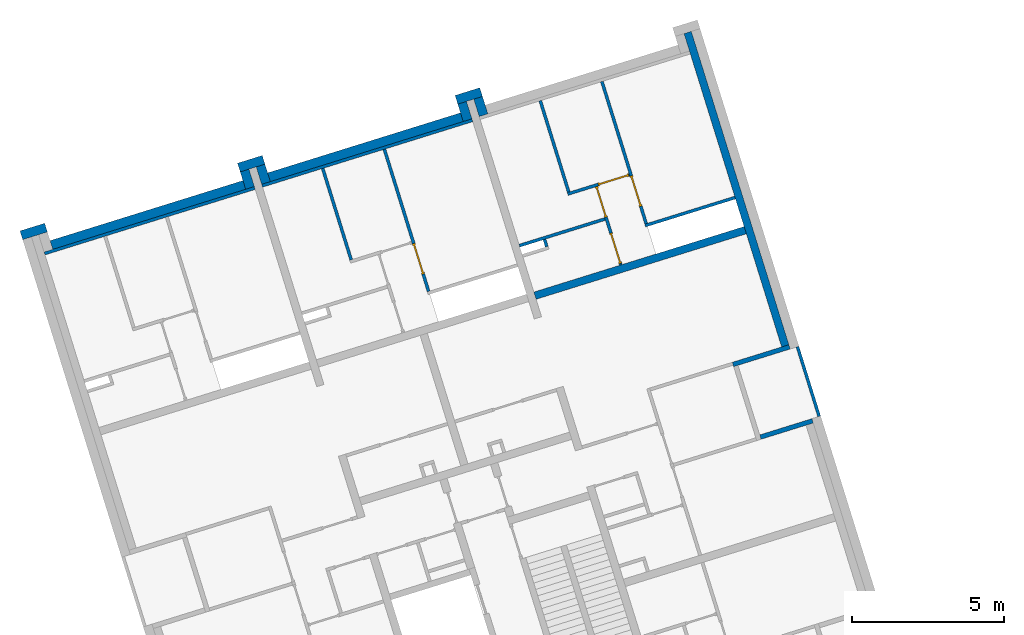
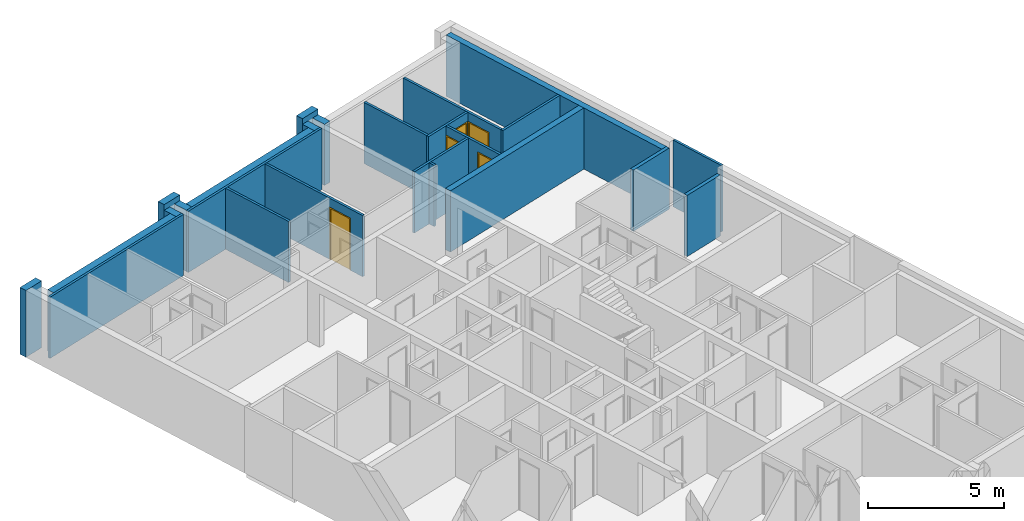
# One storey, part 9 of 12: 25 walls, 5 doors, 9 openings.
"""IFC4 building model written with IfcOpenShell, lengths in metres."""

from ifc_helpers import new_model, entity, si_unit, converted_unit, direction, frame, origin, place, context, subcontext, project, spatial, indexed_curve, outline, extrude, polygons, source, transform, mapped, material, constituent, constituent_set, type_object, element, fill, save


model = new_model("IFC4")

# Units and contexts
model_context = context("Model", 3, precision=1e-05, world=origin(), true_north=direction((6.12323399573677e-17, 1.0)))
body_context = subcontext(model_context, "Body", "Model", "MODEL_VIEW")
ifc_project = project(units=[si_unit("LENGTHUNIT", "METRE"), si_unit("AREAUNIT", "SQUARE_METRE"), si_unit("VOLUMEUNIT", "CUBIC_METRE"), converted_unit("PLANEANGLEUNIT", "DEGREE", entity("IfcPlaneAngleMeasure", 0.0174532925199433), si_unit("PLANEANGLEUNIT", "RADIAN"), dimensions=[0, 0, 0, 0, 0, 0, 0])], contexts=[model_context])

# Site, building, storey
site_placement = place(None, frame((13.1347999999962, 11.9886000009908, 0.0), z_axis=(0.0, 0.0, 1.0), x_axis=(0.954770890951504, 0.297342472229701, 0.0)))
site = spatial("IfcSite", under=ifc_project, at=site_placement, Name="Schiehaven", CompositionType="ELEMENT")
building_placement = place(site_placement, origin())
building = spatial("IfcBuilding", under=site, at=building_placement, Name="VORM huis", CompositionType="ELEMENT")
storey_placement = place(building_placement, frame((0.0, 0.0, 3.9)))
storey = spatial("IfcBuildingStorey", under=building, at=storey_placement, Name="01 eerste verdieping", CompositionType="ELEMENT", Elevation=3.9)

# Walls
ifc_material_1 = material(Name="beton_gewapend_ihw", Category="Miscellaneous")
wall_type_1 = type_object("IfcWallType", Name="Basic Wall:28_WA_skelet_wand 250mm_gen", PredefinedType="STANDARD")
wall_1_placement = place(storey_placement, frame((27.5000000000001, 22.9249999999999, 0.0), z_axis=(0.0, 0.0, 1.0), x_axis=(0.0, 1.0, 0.0)))
element("IfcWall", 1, at=wall_1_placement, inside=storey, type_object=wall_type_1, material=ifc_material_1, Name="Constructieve wand", ObjectType="Wand", PredefinedType="NOTDEFINED", context=body_context, shape_type="SweptSolid", body=[
    extrude(outline(indexed_curve([(10.8000000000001, 0.125000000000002), (1.00265474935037e-16, 0.125000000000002), (-1.00265474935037e-16, -0.125000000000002), (10.8000000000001, -0.125000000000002), (10.8000000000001, 0.125000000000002)], self_intersect=False)), origin(), (0.0, 0.0, 1.0), 2.75),
])
ifc_material_2 = material(Name="ntb_ntb_ntb", Category="Miscellaneous")
wall_type_2 = type_object("IfcWallType", Name="Basic Wall:21_WA_gevel_binnenspouwwand 100mm_gen", PredefinedType="STANDARD")
wall_2_placement = place(storey_placement, frame((5.12500000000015, 33.0750000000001, 0.0)))
element("IfcWall", 2, at=wall_2_placement, inside=storey, type_object=wall_type_2, material=ifc_material_2, Name="Binnenspouwblad", ObjectType="Wand", PredefinedType="NOTDEFINED", context=body_context, shape_type="SweptSolid", body=[
    extrude(outline(indexed_curve([(7.24999999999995, 0.0499999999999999), (-1.37255262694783e-16, 0.0500000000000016), (1.37255262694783e-16, -0.0500000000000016), (7.24999999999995, -0.0500000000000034), (7.24999999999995, 0.0499999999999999)], self_intersect=False)), origin(), (0.0, 0.0, 1.0), 2.75),
])
wall_3_placement = place(storey_placement, frame((19.8750000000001, 33.075, 0.0), z_axis=(0.0, 0.0, 1.0), x_axis=(-1.0, 0.0, 0.0)))
element("IfcWall", 3, at=wall_3_placement, inside=storey, type_object=wall_type_2, material=ifc_material_2, Name="Binnenspouwblad", ObjectType="Wand", PredefinedType="NOTDEFINED", context=body_context, shape_type="SweptSolid", body=[
    extrude(outline(indexed_curve([(7.24999999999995, 0.0500000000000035), (1.69379877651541e-17, 0.0500000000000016), (-1.69379877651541e-17, -0.0500000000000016), (7.24999999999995, -0.0499999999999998), (7.24999999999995, 0.0500000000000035)], self_intersect=False)), origin(), (0.0, 0.0, 1.0), 2.75),
])
wall_type_3 = type_object("IfcWallType", Name="Basic Wall: 300mm_gen", PredefinedType="STANDARD")
wall_4_placement = place(storey_placement, frame((5.42500000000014, 33.8750000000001, 0.0), z_axis=(0.0, 0.0, 1.0), x_axis=(-1.0, 0.0, 0.0)))
element("IfcWall", 4, at=wall_4_placement, inside=storey, type_object=wall_type_3, material=ifc_material_2, Name="Gevelwand", ObjectType="Wand", PredefinedType="NOTDEFINED", context=body_context, shape_type="SweptSolid", body=[
    extrude(outline(indexed_curve([(0.85000000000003, 0.150000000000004), (4.24655718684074e-16, 0.150000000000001), (-4.24655718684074e-16, -0.150000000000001), (0.850000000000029, -0.149999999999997), (0.85000000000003, 0.150000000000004)], self_intersect=False)), origin(), (0.0, 0.0, 1.0), 3.0),
])
wall_5_placement = place(storey_placement, frame((12.2250000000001, 33.725, 0.0), z_axis=(0.0, 0.0, 1.0), x_axis=(0.0, -1.0, 0.0)))
element("IfcWall", 5, at=wall_5_placement, inside=storey, type_object=wall_type_3, material=ifc_material_2, Name="Gevelwand", ObjectType="Wand", PredefinedType="NOTDEFINED", context=body_context, shape_type="SweptSolid", body=[
    extrude(outline(indexed_curve([(0.600000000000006, 0.150000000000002), (-9.66298299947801e-16, 0.150000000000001), (9.66298299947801e-16, -0.150000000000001), (0.600000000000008, -0.149999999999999), (0.600000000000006, 0.150000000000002)], self_intersect=False)), origin(), (0.0, 0.0, 1.0), 2.75),
])
wall_6_placement = place(storey_placement, frame((12.0750000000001, 33.275, 0.0), z_axis=(0.0, 0.0, 1.0), x_axis=(-1.0, 0.0, 0.0)))
element("IfcWall", 6, at=wall_6_placement, inside=storey, type_object=wall_type_3, material=ifc_material_2, Name="Gevelwand", ObjectType="Wand", PredefinedType="NOTDEFINED", context=body_context, shape_type="SweptSolid", body=[
    extrude(outline(indexed_curve([(6.64999999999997, 0.150000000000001), (-4.90186530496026e-16, 0.150000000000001), (4.90186530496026e-16, -0.150000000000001), (6.64999999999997, -0.15), (6.64999999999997, 0.150000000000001)], self_intersect=False)), origin(), (0.0, 0.0, 1.0), 2.75),
])
wall_7_placement = place(storey_placement, frame((12.9250000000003, 33.875, 0.0), z_axis=(0.0, 0.0, 1.0), x_axis=(-1.0, 0.0, 0.0)))
element("IfcWall", 7, at=wall_7_placement, inside=storey, type_object=wall_type_3, material=ifc_material_2, Name="Gevelwand", ObjectType="Wand", PredefinedType="NOTDEFINED", context=body_context, shape_type="SweptSolid", body=[
    extrude(outline(indexed_curve([(0.850000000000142, 0.150000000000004), (-6.58211410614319e-16, 0.150000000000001), (6.58211410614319e-16, -0.150000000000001), (0.850000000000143, -0.149999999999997), (0.850000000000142, 0.150000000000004)], self_intersect=False)), origin(), (0.0, 0.0, 1.0), 3.0),
])
wall_8_placement = place(storey_placement, frame((12.7750000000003, 33.125, 0.0), z_axis=(0.0, 0.0, 1.0), x_axis=(0.0, 1.0, 0.0)))
element("IfcWall", 8, at=wall_8_placement, inside=storey, type_object=wall_type_3, material=ifc_material_2, Name="Gevelwand", ObjectType="Wand", PredefinedType="NOTDEFINED", context=body_context, shape_type="SweptSolid", body=[
    extrude(outline(indexed_curve([(0.600000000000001, 0.150000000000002), (-9.66298299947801e-16, 0.150000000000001), (9.66298299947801e-16, -0.150000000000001), (0.600000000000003, -0.149999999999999), (0.600000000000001, 0.150000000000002)], self_intersect=False)), origin(), (0.0, 0.0, 1.0), 2.75),
])
wall_9_placement = place(storey_placement, frame((19.7250000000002, 33.725, 0.0), z_axis=(0.0, 0.0, 1.0), x_axis=(0.0, -1.0, 0.0)))
element("IfcWall", 9, at=wall_9_placement, inside=storey, type_object=wall_type_3, material=ifc_material_2, Name="Gevelwand", ObjectType="Wand", PredefinedType="NOTDEFINED", context=body_context, shape_type="SweptSolid", body=[
    extrude(outline(indexed_curve([(0.600000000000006, 0.15), (-9.66298299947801e-16, 0.150000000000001), (9.66298299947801e-16, -0.150000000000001), (0.600000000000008, -0.150000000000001), (0.600000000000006, 0.15)], self_intersect=False)), origin(), (0.0, 0.0, 1.0), 2.75),
])
wall_10_placement = place(storey_placement, frame((19.5750000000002, 33.275, 0.0), z_axis=(0.0, 0.0, 1.0), x_axis=(-1.0, 0.0, 0.0)))
element("IfcWall", 10, at=wall_10_placement, inside=storey, type_object=wall_type_3, material=ifc_material_2, Name="Gevelwand", ObjectType="Wand", PredefinedType="NOTDEFINED", context=body_context, shape_type="SweptSolid", body=[
    extrude(outline(indexed_curve([(6.64999999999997, 0.150000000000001), (-4.90186530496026e-16, 0.150000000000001), (4.90186530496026e-16, -0.150000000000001), (6.64999999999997, -0.15), (6.64999999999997, 0.150000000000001)], self_intersect=False)), origin(), (0.0, 0.0, 1.0), 2.75),
])
wall_11_placement = place(storey_placement, frame((20.4250000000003, 33.875, 0.0), z_axis=(0.0, 0.0, 1.0), x_axis=(-1.0, 0.0, 0.0)))
element("IfcWall", 11, at=wall_11_placement, inside=storey, type_object=wall_type_3, material=ifc_material_2, Name="Gevelwand", ObjectType="Wand", PredefinedType="NOTDEFINED", context=body_context, shape_type="SweptSolid", body=[
    extrude(outline(indexed_curve([(0.850000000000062, 0.150000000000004), (-6.58211410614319e-16, 0.150000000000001), (6.58211410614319e-16, -0.150000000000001), (0.850000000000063, -0.149999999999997), (0.850000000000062, 0.150000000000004)], self_intersect=False)), origin(), (0.0, 0.0, 1.0), 3.0),
])
wall_12_placement = place(storey_placement, frame((20.2750000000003, 33.125, 0.0), z_axis=(0.0, 0.0, 1.0), x_axis=(0.0, 1.0, 0.0)))
element("IfcWall", 12, at=wall_12_placement, inside=storey, type_object=wall_type_3, material=ifc_material_2, Name="Gevelwand", ObjectType="Wand", PredefinedType="NOTDEFINED", context=body_context, shape_type="SweptSolid", body=[
    extrude(outline(indexed_curve([(0.60000000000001, 0.15), (-9.66298299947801e-16, 0.150000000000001), (9.66298299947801e-16, -0.150000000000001), (0.600000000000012, -0.150000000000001), (0.60000000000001, 0.15)], self_intersect=False)), origin(), (0.0, 0.0, 1.0), 2.75),
])
wall_type_4 = type_object("IfcWallType", Name="Basic Wall:22_WA_afbouw_binnenwand 250mm_gen", PredefinedType="STANDARD")
wall_13_placement = place(storey_placement, frame((20.1250000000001, 26.9499999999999, 0.0)))
element("IfcWall", 13, at=wall_13_placement, inside=storey, type_object=wall_type_4, material=ifc_material_2, Name="Binnenwand", ObjectType="Wand", PredefinedType="NOTDEFINED", context=body_context, shape_type="SweptSolid", body=[
    extrude(outline(indexed_curve([(7.24999999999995, 0.124999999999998), (-6.13193370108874e-16, 0.125000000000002), (6.13193370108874e-16, -0.125000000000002), (7.24999999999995, -0.125000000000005), (7.24999999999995, 0.124999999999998)], self_intersect=False)), origin(), (0.0, 0.0, 1.0), 2.75),
])

# Wall, openings, door
wall_type_5 = type_object("IfcWallType", Name="Basic Wall:22_WA_afbouw_binnenwand 100mm_gen", PredefinedType="STANDARD")
wall_14_placement = place(storey_placement, frame((16.8250000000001, 33.025, 0.0), z_axis=(0.0, 0.0, 1.0), x_axis=(0.0, -1.0, 0.0)))
wall_14 = element("IfcWall", 14, at=wall_14_placement, inside=storey, type_object=wall_type_5, material=ifc_material_2, Name="Binnenwand", ObjectType="Wand", PredefinedType="NOTDEFINED", context=body_context, shape_type="Tessellation", body=[
    polygons([(4.90000000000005, -0.0500000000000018, 2.75), (3.25000000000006, -0.0500000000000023, 2.75), (3.15000000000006, -0.0500000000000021, 2.75), (0.0, -0.0500000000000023, 2.75), (0.0, -0.0500000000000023, 0.0), (3.15000000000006, -0.0500000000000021, 5.41433564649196e-16), (3.25000000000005, -0.0500000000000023, 0.0), (3.25000000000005, -0.0500000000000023, 2.34999999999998), (4.30000000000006, -0.0500000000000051, 2.34999999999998), (4.30000000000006, -0.0500000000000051, 0.0), (4.90000000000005, -0.0500000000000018, 0.0), (0.0, 0.0499999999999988, 2.75), (4.90000000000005, 0.0499999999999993, 2.75), (4.90000000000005, 0.0499999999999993, 0.0), (4.30000000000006, 0.0499999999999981, 0.0), (4.30000000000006, 0.0499999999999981, 2.34999999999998), (3.25000000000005, 0.0499999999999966, 2.34999999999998), (3.25000000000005, 0.0499999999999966, 0.0), (0.0, 0.0499999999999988, 0.0)], [[[1, 2, 3, 4, 5, 6, 7, 8, 9, 10, 11]], [[12, 13, 14, 15, 16, 17, 18, 19]], [[5, 19, 18, 7, 6]], [[4, 3, 2, 1, 13, 12]], [[5, 4, 12, 19]], [[1, 11, 14, 13]], [[9, 16, 15, 10]], [[17, 8, 7, 18]], [[16, 9, 8, 17]], [[14, 11, 10, 15]]], closed=True),
])
opening_1_placement = place(wall_14_placement, frame((4.30000000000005, 0.0500000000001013, 0.0)))
opening_1 = element("IfcOpeningElement", 15, at=opening_1_placement, cuts=wall_14, Name="Binnendeur", PredefinedType="OPENING", context=body_context, shape_type="SweptSolid", body=[
    extrude(outline(indexed_curve([(2.34999999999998, 0.0), (2.34999999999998, 1.05), (0.0, 1.05), (0.0, 0.0), (2.34999999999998, 0.0)], self_intersect=False)), frame((0.0, 0.0, 0.0), z_axis=(0.0, -1.0, 0.0), x_axis=(0.0, 0.0, 1.0)), (0.0, 0.0, 1.0), 0.1),
])
opening_2_placement = place(wall_14_placement, frame((33.025, -16.8250000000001, 0.0), z_axis=(0.0, 0.0, 1.0), x_axis=(0.0, 1.0, 0.0)))
element("IfcOpeningElement", 16, at=opening_2_placement, cuts=wall_14, Name="Binnendeur", PredefinedType="OPENING", context=body_context, shape_type="SweptSolid", body=[
    extrude(outline(indexed_curve([(-1.17499999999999, -0.524999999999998), (1.17499999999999, -0.525000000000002), (1.17499999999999, 0.525000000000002), (-1.17499999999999, 0.525000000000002), (-1.17499999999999, -0.524999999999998)], self_intersect=False)), frame((15.3510000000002, 29.2499999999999, 1.17499999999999), z_axis=(1.0, 0.0, 0.0), x_axis=(0.0, 0.0, -1.0)), (0.0, 0.0, 1.0), 3.048),
])
ifc_material_3 = material(Name="PD_a_binnenwandopeningen", Category="Miscellaneous")
ifc_constituent_1 = constituent(ifc_material_3, Name="PD_a_binnenwandopeningen", Category="Miscellaneous")
ifc_material_4 = material(Name="metaal_aluminium_ntb", Category="Miscellaneous")
ifc_constituent_2 = constituent(ifc_material_4, Name="metaal_aluminium_ntb", Category="Miscellaneous")
ifc_constituent_set_1 = constituent_set(constituents=[ifc_constituent_1, ifc_constituent_2])
door_type = type_object("IfcDoorType", Name="32_DO_binnendeur enkel:binnendeur", OperationType="REVOLVING", PredefinedType="DOOR")
shared_shape = source(origin(), body_context, "Body", "SweptSolid", [
    extrude(outline(indexed_curve([(0.475, -1.16249999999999), (0.525, -1.16249999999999), (0.525, 1.18749999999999), (-0.525, 1.18749999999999), (-0.525, -1.16249999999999), (-0.475, -1.16249999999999), (-0.475, 1.13749999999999), (0.475, 1.13749999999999), (0.475, -1.16249999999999)], self_intersect=False)), frame((0.525000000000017, 0.100000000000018, 1.16249999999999), z_axis=(0.0, -1.0, 0.0), x_axis=(1.0, 0.0, 0.0)), (0.0, 0.0, 1.0), 0.1),
    extrude(outline(indexed_curve([(-0.475, -0.025), (0.475, -0.025), (0.475, 0.025), (-0.475, 0.025), (-0.475, -0.025)], self_intersect=False)), frame((0.525000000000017, 0.0499999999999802, 0.0)), (0.0, 0.0, 1.0), 2.29999999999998),
])
door_1_placement = place(opening_1_placement, frame((0.0, 0.0, 0.0), z_axis=(0.0, 0.0, 1.0), x_axis=(-1.0, 0.0, 0.0)))
door_1 = element("IfcDoor", 17, at=door_1_placement, inside=storey, type_object=door_type, material=ifc_constituent_set_1, Name="Binnendeur", ObjectType="Deur", OperationType="REVOLVING", OverallHeight=2.34999999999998, OverallWidth=1.05, PredefinedType="DOOR", context=body_context, shape_type="MappedRepresentation", body=[
    mapped(shared_shape, transform((0.0, 0.0, 0.0), scale=1.0)),
])
fill(opening_1, door_1)

# Wall
wall_15_placement = place(storey_placement, frame((14.7000000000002, 33.025, 0.0), z_axis=(0.0, 0.0, 1.0), x_axis=(0.0, -1.0, 0.0)))
element("IfcWall", 18, at=wall_15_placement, inside=storey, type_object=wall_type_5, material=ifc_material_2, Name="Binnenwand", ObjectType="Wand", PredefinedType="NOTDEFINED", context=body_context, shape_type="SweptSolid", body=[
    extrude(outline(indexed_curve([(3.15000000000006, 0.0499999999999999), (1.16254574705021e-15, 0.0499999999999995), (-1.16254574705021e-15, -0.0499999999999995), (3.15000000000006, -0.0499999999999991), (3.15000000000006, 0.0499999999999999)], self_intersect=False)), origin(), (0.0, 0.0, 1.0), 2.75),
])

# Wall, openings, door
wall_16_placement = place(storey_placement, frame((24.2750000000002, 29.8250000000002, 0.0), z_axis=(0.0, 0.0, 1.0), x_axis=(-1.0, 0.0, 0.0)))
wall_16 = element("IfcWall", 19, at=wall_16_placement, inside=storey, type_object=wall_type_5, material=ifc_material_2, Name="Binnenwand", ObjectType="Wand", PredefinedType="NOTDEFINED", context=body_context, shape_type="Tessellation", body=[
    polygons([(2.12499999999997, -0.0499999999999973, 2.75), (2.02499999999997, -0.0500000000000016, 2.75), (1.97067743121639e-15, -0.0499999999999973, 2.75), (1.97067743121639e-15, -0.0499999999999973, 0.0), (0.0250000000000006, -0.0500000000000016, 0.0), (0.0250000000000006, -0.0500000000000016, 2.34999999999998), (1.075, -0.0500000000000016, 2.34999999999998), (1.075, -0.0500000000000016, 0.0), (2.02499999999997, -0.0500000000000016, 5.41433564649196e-16), (2.12499999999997, -0.0499999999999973, 0.0), (-1.20098390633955e-16, 0.0500000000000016, 2.75), (1.09999999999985, 0.0499999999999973, 2.75), (1.19999999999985, 0.0499999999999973, 2.75), (2.12499999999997, 0.0500000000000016, 2.75), (2.12499999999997, 0.0500000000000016, 0.0), (1.075, 0.0500000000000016, 0.0), (1.075, 0.0500000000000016, 2.34999999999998), (0.0249999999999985, 0.0499999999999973, 2.34999999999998), (0.0249999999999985, 0.0499999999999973, 0.0), (-1.20098390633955e-16, 0.0500000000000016, 0.0), (-1.20098390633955e-16, 0.0500000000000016, 2.34999999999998)], [[[1, 2, 3, 4, 5, 6, 7, 8, 9, 10]], [[11, 12, 13, 14, 15, 16, 17, 18, 19, 20, 21]], [[4, 20, 19, 5]], [[3, 2, 1, 14, 13, 12, 11]], [[4, 3, 11, 21, 20]], [[18, 6, 5, 19]], [[7, 17, 16, 8]], [[6, 18, 17, 7]], [[1, 10, 15, 14]], [[15, 10, 9, 8, 16]]], closed=True),
])
opening_3_placement = place(wall_16_placement, origin())
element("IfcOpeningElement", 20, at=opening_3_placement, cuts=wall_16, Name="Binnendeur", PredefinedType="OPENING", context=body_context, shape_type="SweptSolid", body=[
    extrude(outline(indexed_curve([(-0.0500000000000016, -1.17499999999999), (0.0499999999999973, -1.17499999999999), (0.0499999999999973, 1.17499999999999), (-0.0500000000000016, 1.17499999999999), (-0.0500000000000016, -1.17499999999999)], self_intersect=False)), frame((1.14999999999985, 0.0499999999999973, 1.17499999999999), z_axis=(0.0, 1.0, 0.0), x_axis=(-1.0, 0.0, 0.0)), (0.0, 0.0, 1.0), 1.05),
])
opening_4_placement = place(wall_16_placement, frame((0.0249999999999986, -0.050000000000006, 0.0)))
opening_4 = element("IfcOpeningElement", 21, at=opening_4_placement, cuts=wall_16, Name="Binnendeur", PredefinedType="OPENING", context=body_context, shape_type="SweptSolid", body=[
    extrude(outline(indexed_curve([(2.34999999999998, 0.0), (2.34999999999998, 1.05), (0.0, 1.05), (0.0, 0.0), (2.34999999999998, 0.0)], self_intersect=False)), frame((0.0, 0.0, 0.0), z_axis=(0.0, 1.0, 0.0), x_axis=(0.0, 0.0, 1.0)), (0.0, 0.0, 1.0), 0.1),
])
ifc_constituent_3 = constituent(ifc_material_3, Name="PD_a_binnenwandopeningen", Category="Miscellaneous")
ifc_constituent_4 = constituent(ifc_material_4, Name="metaal_aluminium_ntb", Category="Miscellaneous")
ifc_constituent_set_2 = constituent_set(constituents=[ifc_constituent_3, ifc_constituent_4])
door_2_placement = place(opening_4_placement, origin())
door_2 = element("IfcDoor", 22, at=door_2_placement, inside=storey, type_object=door_type, material=ifc_constituent_set_2, Name="Binnendeur", ObjectType="Deur", OperationType="REVOLVING", OverallHeight=2.34999999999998, OverallWidth=1.05, PredefinedType="DOOR", context=body_context, shape_type="MappedRepresentation", body=[
    mapped(shared_shape, transform((0.0, 0.0, 0.0), scale=1.0)),
])
fill(opening_4, door_2)

# Wall
wall_17_placement = place(storey_placement, frame((24.2750000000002, 28.0750000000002, 0.0)))
element("IfcWall", 23, at=wall_17_placement, inside=storey, type_object=wall_type_5, material=ifc_material_2, Name="Binnenwand", ObjectType="Wand", PredefinedType="NOTDEFINED", context=body_context, shape_type="SweptSolid", body=[
    extrude(outline(indexed_curve([(3.1000000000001, 0.0500000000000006), (1.27359924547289e-15, 0.0500000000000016), (-1.27359924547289e-15, -0.0500000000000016), (3.1000000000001, -0.0500000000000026), (3.1000000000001, 0.0500000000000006)], self_intersect=False)), origin(), (0.0, 0.0, 1.0), 2.75),
])

# Wall, openings, door
wall_18_placement = place(storey_placement, frame((24.3250000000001, 33.0250000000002, 0.0), z_axis=(0.0, 0.0, 1.0), x_axis=(0.0, -1.0, 0.0)))
wall_18 = element("IfcWall", 24, at=wall_18_placement, inside=storey, type_object=wall_type_5, material=ifc_material_2, Name="Binnenwand", ObjectType="Wand", PredefinedType="NOTDEFINED", context=body_context, shape_type="Tessellation", body=[
    polygons([(4.90000000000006, -0.0499999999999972, 2.75), (3.25000000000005, -0.0499999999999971, 2.75), (3.15000000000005, -0.049999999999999, 2.75), (0.0, -0.049999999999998, 2.75), (0.0, -0.049999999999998, 0.0), (3.15000000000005, -0.049999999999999, 5.41433564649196e-16), (3.25000000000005, -0.0499999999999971, 0.0), (3.25000000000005, -0.0499999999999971, 2.34999999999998), (4.30000000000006, -0.0500000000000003, 2.34999999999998), (4.30000000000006, -0.0500000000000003, 0.0), (4.90000000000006, -0.0499999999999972, 0.0), (0.0, 0.050000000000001, 2.75), (4.90000000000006, 0.0500000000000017, 2.75), (4.90000000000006, 0.0500000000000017, 0.0), (4.30000000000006, 0.0499999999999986, 0.0), (4.30000000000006, 0.0499999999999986, 2.34999999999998), (3.25000000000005, 0.0500000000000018, 2.34999999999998), (3.25000000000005, 0.0500000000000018, 0.0), (0.0, 0.050000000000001, 0.0)], [[[1, 2, 3, 4, 5, 6, 7, 8, 9, 10, 11]], [[12, 13, 14, 15, 16, 17, 18, 19]], [[5, 19, 18, 7, 6]], [[4, 3, 2, 1, 13, 12]], [[5, 4, 12, 19]], [[1, 11, 14, 13]], [[9, 16, 15, 10]], [[17, 8, 7, 18]], [[16, 9, 8, 17]], [[14, 11, 10, 15]]], closed=True),
])
opening_5_placement = place(wall_18_placement, frame((4.30000000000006, 0.0500000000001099, 0.0)))
opening_5 = element("IfcOpeningElement", 25, at=opening_5_placement, cuts=wall_18, Name="Binnendeur", PredefinedType="OPENING", context=body_context, shape_type="SweptSolid", body=[
    extrude(outline(indexed_curve([(2.34999999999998, 0.0), (2.34999999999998, 1.05), (0.0, 1.05), (0.0, 0.0), (2.34999999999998, 0.0)], self_intersect=False)), frame((0.0, 0.0, 0.0), z_axis=(0.0, -1.0, 0.0), x_axis=(0.0, 0.0, 1.0)), (0.0, 0.0, 1.0), 0.1),
])
opening_6_placement = place(wall_18_placement, frame((33.0250000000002, -24.3250000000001, 0.0), z_axis=(0.0, 0.0, 1.0), x_axis=(0.0, 1.0, 0.0)))
element("IfcOpeningElement", 26, at=opening_6_placement, cuts=wall_18, Name="Binnendeur", PredefinedType="OPENING", context=body_context, shape_type="SweptSolid", body=[
    extrude(outline(indexed_curve([(-1.17499999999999, -0.524999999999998), (1.17499999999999, -0.525000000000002), (1.17499999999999, 0.525000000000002), (-1.17499999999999, 0.525000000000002), (-1.17499999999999, -0.524999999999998)], self_intersect=False)), frame((22.8510000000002, 29.2500000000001, 1.17499999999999), z_axis=(1.0, 0.0, 0.0), x_axis=(0.0, 0.0, -1.0)), (0.0, 0.0, 1.0), 3.048),
])
ifc_constituent_5 = constituent(ifc_material_3, Name="PD_a_binnenwandopeningen", Category="Miscellaneous")
ifc_constituent_6 = constituent(ifc_material_4, Name="metaal_aluminium_ntb", Category="Miscellaneous")
ifc_constituent_set_3 = constituent_set(constituents=[ifc_constituent_5, ifc_constituent_6])
door_3_placement = place(opening_5_placement, frame((0.0, 0.0, 0.0), z_axis=(0.0, 0.0, 1.0), x_axis=(-1.0, 0.0, 0.0)))
door_3 = element("IfcDoor", 27, at=door_3_placement, inside=storey, type_object=door_type, material=ifc_constituent_set_3, Name="Binnendeur", ObjectType="Deur", OperationType="REVOLVING", OverallHeight=2.34999999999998, OverallWidth=1.05, PredefinedType="DOOR", context=body_context, shape_type="MappedRepresentation", body=[
    mapped(shared_shape, transform((0.0, 0.0, 0.0), scale=1.0)),
])
fill(opening_5, door_3)

# Wall
wall_19_placement = place(storey_placement, frame((22.2000000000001, 33.0250000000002, 0.0), z_axis=(0.0, 0.0, 1.0), x_axis=(0.0, -1.0, 0.0)))
element("IfcWall", 28, at=wall_19_placement, inside=storey, type_object=wall_type_5, material=ifc_material_2, Name="Binnenwand", ObjectType="Wand", PredefinedType="NOTDEFINED", context=body_context, shape_type="SweptSolid", body=[
    extrude(outline(indexed_curve([(3.15000000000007, 0.0500000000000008), (1.18222446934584e-15, 0.0500000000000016), (-1.18222446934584e-15, -0.0500000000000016), (3.15000000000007, -0.0500000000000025), (3.15000000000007, 0.0500000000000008)], self_intersect=False)), origin(), (0.0, 0.0, 1.0), 2.75),
])

# Wall, openings, doors
wall_20_placement = place(storey_placement, frame((23.1250000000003, 29.7750000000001, 0.0), z_axis=(0.0, 0.0, 1.0), x_axis=(0.0, -1.0, 0.0)))
wall_20 = element("IfcWall", 29, at=wall_20_placement, inside=storey, type_object=wall_type_5, material=ifc_material_2, Name="Binnenwand", ObjectType="Wand", PredefinedType="NOTDEFINED", context=body_context, shape_type="Tessellation", body=[
    polygons([(2.7000000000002, -0.0500000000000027, 2.75), (1.15000000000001, -0.0500000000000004, 2.75), (1.05000000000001, -0.0500000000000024, 2.75), (4.33146851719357e-15, -0.049999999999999, 2.75), (4.33146851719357e-15, -0.049999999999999, 2.34999999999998), (1.05000000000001, -0.0500000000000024, 2.34999999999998), (1.05000000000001, -0.0500000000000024, 0.0), (1.15000000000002, -0.0500000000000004, 5.41433564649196e-16), (1.59999999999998, -0.0499999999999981, 0.0), (1.59999999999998, -0.0499999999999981, 2.34999999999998), (2.64999999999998, -0.0500000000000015, 2.34999999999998), (2.64999999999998, -0.0500000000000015, 0.0), (2.7000000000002, -0.0500000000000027, 0.0), (4.33146851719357e-15, 0.0499999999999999, 2.75), (2.7000000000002, 0.0500000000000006, 2.75), (2.7000000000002, 0.0500000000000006, 0.0), (2.64999999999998, 0.0499999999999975, 0.0), (2.64999999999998, 0.0499999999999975, 2.34999999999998), (1.59999999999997, 0.0500000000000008, 2.34999999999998), (1.59999999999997, 0.0500000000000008, 0.0), (1.05000000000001, 0.0499999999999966, 0.0), (1.05000000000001, 0.0499999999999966, 2.34999999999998), (4.33146851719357e-15, 0.0499999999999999, 2.34999999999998)], [[[1, 2, 3, 4, 5, 6, 7, 8, 9, 10, 11, 12, 13]], [[14, 15, 16, 17, 18, 19, 20, 21, 22, 23]], [[12, 17, 16, 13]], [[4, 3, 2, 1, 15, 14]], [[19, 18, 11, 10]], [[18, 17, 12, 11]], [[20, 19, 10, 9]], [[4, 14, 23, 5]], [[6, 22, 21, 7]], [[22, 6, 5, 23]], [[1, 13, 16, 15]], [[20, 9, 8, 7, 21]]], closed=True),
])
opening_7_placement = place(wall_20_placement, frame((1.59999999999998, -0.049999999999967, 0.0)))
opening_7 = element("IfcOpeningElement", 30, at=opening_7_placement, cuts=wall_20, Name="Binnendeur", PredefinedType="OPENING", context=body_context, shape_type="SweptSolid", body=[
    extrude(outline(indexed_curve([(2.34999999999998, 0.0), (2.34999999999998, 1.05), (0.0, 1.05), (0.0, 0.0), (2.34999999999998, 0.0)], self_intersect=False)), frame((0.0, 0.0, 0.0), z_axis=(0.0, 1.0, 0.0), x_axis=(0.0, 0.0, 1.0)), (0.0, 0.0, 1.0), 0.1),
])
opening_8_placement = place(wall_20_placement, frame((29.7750000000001, -23.1250000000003, 0.0), z_axis=(0.0, 0.0, 1.0), x_axis=(0.0, 1.0, 0.0)))
element("IfcOpeningElement", 31, at=opening_8_placement, cuts=wall_20, Name="Binnendeur", PredefinedType="OPENING", context=body_context, shape_type="SweptSolid", body=[
    extrude(outline(indexed_curve([(-0.525000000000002, -1.17499999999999), (0.525000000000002, -1.17499999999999), (0.524999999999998, 1.17499999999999), (-0.525000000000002, 1.17499999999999), (-0.525000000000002, -1.17499999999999)], self_intersect=False)), frame((21.5510000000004, 27.6500000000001, 1.17499999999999), z_axis=(1.0, 0.0, 0.0), x_axis=(0.0, -1.0, 0.0)), (0.0, 0.0, 1.0), 3.048),
])
opening_9_placement = place(wall_20_placement, frame((0.0, -0.0500000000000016, 0.0)))
opening_9 = element("IfcOpeningElement", 32, at=opening_9_placement, cuts=wall_20, Name="Binnendeur", PredefinedType="OPENING", context=body_context, shape_type="SweptSolid", body=[
    extrude(outline(indexed_curve([(2.34999999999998, 0.0), (2.34999999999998, 1.05), (0.0, 1.05), (0.0, 0.0), (2.34999999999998, 0.0)], self_intersect=False)), frame((0.0, 0.0, 0.0), z_axis=(0.0, 1.0, 0.0), x_axis=(0.0, 0.0, 1.0)), (0.0, 0.0, 1.0), 0.1),
])
ifc_constituent_7 = constituent(ifc_material_3, Name="PD_a_binnenwandopeningen", Category="Miscellaneous")
ifc_constituent_8 = constituent(ifc_material_4, Name="metaal_aluminium_ntb", Category="Miscellaneous")
ifc_constituent_set_4 = constituent_set(constituents=[ifc_constituent_7, ifc_constituent_8])
door_4_placement = place(opening_7_placement, origin())
door_4 = element("IfcDoor", 33, at=door_4_placement, inside=storey, type_object=door_type, material=ifc_constituent_set_4, Name="Binnendeur", ObjectType="Deur", OperationType="REVOLVING", OverallHeight=2.34999999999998, OverallWidth=1.05, PredefinedType="DOOR", context=body_context, shape_type="MappedRepresentation", body=[
    mapped(shared_shape, transform((0.0, 0.0, 0.0), scale=1.0)),
])
fill(opening_7, door_4)
ifc_constituent_9 = constituent(ifc_material_3, Name="PD_a_binnenwandopeningen", Category="Miscellaneous")
ifc_constituent_10 = constituent(ifc_material_4, Name="metaal_aluminium_ntb", Category="Miscellaneous")
ifc_constituent_set_5 = constituent_set(constituents=[ifc_constituent_9, ifc_constituent_10])
door_5_placement = place(opening_9_placement, origin())
door_5 = element("IfcDoor", 34, at=door_5_placement, inside=storey, type_object=door_type, material=ifc_constituent_set_5, Name="Binnendeur", ObjectType="Deur", OperationType="REVOLVING", OverallHeight=2.34999999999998, OverallWidth=1.05, PredefinedType="DOOR", context=body_context, shape_type="MappedRepresentation", body=[
    mapped(shared_shape, transform((0.0, 0.0, 0.0), scale=1.0)),
])
fill(opening_9, door_5)

# Walls
wall_21_placement = place(storey_placement, frame((23.0750000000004, 28.6750000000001, 0.0), z_axis=(0.0, 0.0, 1.0), x_axis=(-1.0, 0.0, 0.0)))
element("IfcWall", 35, at=wall_21_placement, inside=storey, type_object=wall_type_5, material=ifc_material_2, Name="Binnenwand", ObjectType="Wand", PredefinedType="NOTDEFINED", context=body_context, shape_type="SweptSolid", body=[
    extrude(outline(indexed_curve([(2.95000000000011, 0.0500000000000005), (1.12034634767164e-15, 0.0500000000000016), (-1.12034634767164e-15, -0.0500000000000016), (2.9500000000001, -0.0500000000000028), (2.95000000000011, 0.0500000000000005)], self_intersect=False)), origin(), (0.0, 0.0, 1.0), 2.75),
])
wall_22_placement = place(storey_placement, frame((20.9750000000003, 28.3750000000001, 0.0), z_axis=(0.0, 0.0, 1.0), x_axis=(0.0, 1.0, 0.0)))
element("IfcWall", 36, at=wall_22_placement, inside=storey, type_object=wall_type_5, material=ifc_material_2, Name="Binnenwand", ObjectType="Wand", PredefinedType="NOTDEFINED", context=body_context, shape_type="SweptSolid", body=[
    extrude(outline(indexed_curve([(0.250000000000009, 0.0500000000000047), (1.12034634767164e-15, 0.0500000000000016), (-1.12034634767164e-15, -0.0500000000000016), (0.250000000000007, -0.0499999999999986), (0.250000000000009, 0.0500000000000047)], self_intersect=False)), origin(), (0.0, 0.0, 1.0), 2.75),
])
wall_type_6 = type_object("IfcWallType", Name="Basic Wall: 150mm_gen", PredefinedType="STANDARD")
wall_23_placement = place(storey_placement, frame((27.6250000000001, 22.8499999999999, 0.0), z_axis=(0.0, 0.0, 1.0), x_axis=(-1.0, 0.0, 0.0)))
element("IfcWall", 37, at=wall_23_placement, inside=storey, type_object=wall_type_6, material=ifc_material_2, Name="Gevelwand", ObjectType="Wand", PredefinedType="NOTDEFINED", context=body_context, shape_type="SweptSolid", body=[
    extrude(outline(indexed_curve([(1.95, 0.0750000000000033), (-1.17111845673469e-16, 0.0750000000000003), (1.17111845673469e-16, -0.0750000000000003), (1.95, -0.0749999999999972), (1.95, 0.0750000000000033)], self_intersect=False)), origin(), (0.0, 0.0, 1.0), 2.75),
])
wall_24_placement = place(storey_placement, frame((25.8250000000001, 20.2999999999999, 0.0)))
element("IfcWall", 38, at=wall_24_placement, inside=storey, type_object=wall_type_6, material=ifc_material_2, Name="Gevelwand", ObjectType="Wand", PredefinedType="NOTDEFINED", context=body_context, shape_type="SweptSolid", body=[
    extrude(outline(indexed_curve([(1.8, 0.0749999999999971), (1.31948999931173e-16, 0.0750000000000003), (-1.31948999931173e-16, -0.0750000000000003), (1.8, -0.0750000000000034), (1.8, 0.0749999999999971)], self_intersect=False)), origin(), (0.0, 0.0, 1.0), 2.75),
])
wall_type_7 = type_object("IfcWallType", Name="Basic Wall: 100mm_gen", PredefinedType="STANDARD")
wall_25_placement = place(storey_placement, frame((27.8750000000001, 22.7749999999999, 0.0), z_axis=(0.0, 0.0, 1.0), x_axis=(0.0, -1.0, 0.0)))
element("IfcWall", 39, at=wall_25_placement, inside=storey, type_object=wall_type_7, material=ifc_material_2, Name="Gevelwand", ObjectType="Wand", PredefinedType="NOTDEFINED", context=body_context, shape_type="SweptSolid", body=[
    extrude(outline(indexed_curve([(2.4, 0.050000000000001), (1.39961647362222e-17, 0.0500000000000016), (-1.39961647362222e-17, -0.0500000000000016), (2.4, -0.0500000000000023), (2.4, 0.050000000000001)], self_intersect=False)), origin(), (0.0, 0.0, 1.0), 3.0),
])

save(model, "model.ifc")
